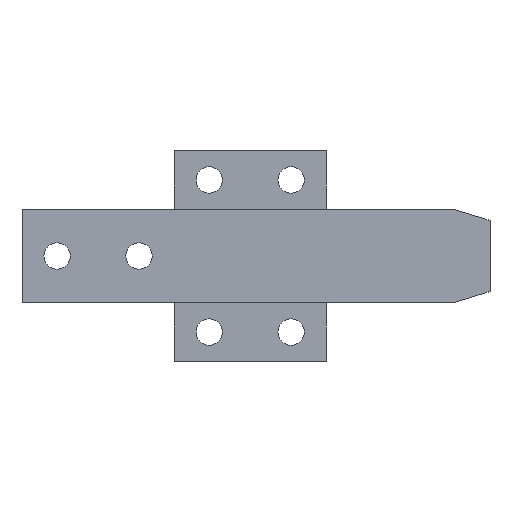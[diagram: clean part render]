
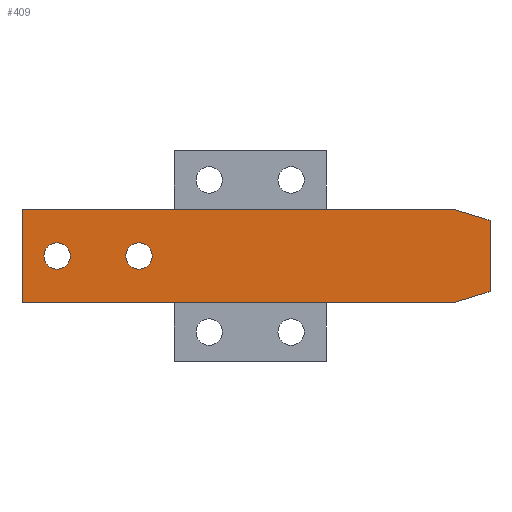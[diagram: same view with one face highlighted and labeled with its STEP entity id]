
A CAD part, front view. The second image highlights one B-rep face of the part: STEP entity #409.
In plain terms, the highlighted planar face has unit normal (0, -1, 0).
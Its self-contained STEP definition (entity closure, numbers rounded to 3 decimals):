
#44=CIRCLE('',#465,2.25);
#45=CIRCLE('',#466,2.25);
#90=ORIENTED_EDGE('',*,*,#170,.F.);
#91=ORIENTED_EDGE('',*,*,#171,.F.);
#92=ORIENTED_EDGE('',*,*,#150,.F.);
#93=ORIENTED_EDGE('',*,*,#166,.F.);
#94=ORIENTED_EDGE('',*,*,#163,.F.);
#95=ORIENTED_EDGE('',*,*,#160,.F.);
#96=ORIENTED_EDGE('',*,*,#157,.F.);
#97=ORIENTED_EDGE('',*,*,#154,.F.);
#150=EDGE_CURVE('',#196,#197,#232,.T.);
#154=EDGE_CURVE('',#197,#200,#236,.T.);
#157=EDGE_CURVE('',#200,#202,#239,.T.);
#160=EDGE_CURVE('',#202,#204,#242,.T.);
#163=EDGE_CURVE('',#204,#206,#245,.T.);
#166=EDGE_CURVE('',#206,#196,#248,.T.);
#170=EDGE_CURVE('',#210,#210,#44,.T.);
#171=EDGE_CURVE('',#211,#211,#45,.T.);
#196=VERTEX_POINT('',#625);
#197=VERTEX_POINT('',#626);
#200=VERTEX_POINT('',#634);
#202=VERTEX_POINT('',#640);
#204=VERTEX_POINT('',#646);
#206=VERTEX_POINT('',#652);
#210=VERTEX_POINT('',#666);
#211=VERTEX_POINT('',#668);
#232=LINE('',#624,#262);
#236=LINE('',#633,#266);
#239=LINE('',#639,#269);
#242=LINE('',#645,#272);
#245=LINE('',#651,#275);
#248=LINE('',#657,#278);
#262=VECTOR('',#504,1000.);
#266=VECTOR('',#510,1000.);
#269=VECTOR('',#515,1000.);
#272=VECTOR('',#520,1000.);
#275=VECTOR('',#525,1000.);
#278=VECTOR('',#530,1000.);
#301=EDGE_LOOP('',(#90));
#302=EDGE_LOOP('',(#91));
#303=EDGE_LOOP('',(#92,#93,#94,#95,#96,#97));
#347=FACE_BOUND('',#301,.T.);
#348=FACE_BOUND('',#302,.T.);
#349=FACE_BOUND('',#303,.T.);
#391=PLANE('',#464);
#409=ADVANCED_FACE('',(#347,#348,#349),#391,.F.);
#464=AXIS2_PLACEMENT_3D('',#664,#538,#539);
#465=AXIS2_PLACEMENT_3D('',#665,#540,#541);
#466=AXIS2_PLACEMENT_3D('',#667,#542,#543);
#504=DIRECTION('',(-1.,0.,0.));
#510=DIRECTION('',(0.,0.,1.));
#515=DIRECTION('',(1.,0.,0.));
#520=DIRECTION('',(0.955,0.,-0.298));
#525=DIRECTION('',(0.,0.,-1.));
#530=DIRECTION('',(-0.955,0.,-0.298));
#538=DIRECTION('',(0.,1.,0.));
#539=DIRECTION('',(0.,0.,1.));
#540=DIRECTION('',(0.,-1.,0.));
#541=DIRECTION('',(0.,0.,-1.));
#542=DIRECTION('',(0.,-1.,0.));
#543=DIRECTION('',(0.,0.,-1.));
#624=CARTESIAN_POINT('',(73.846,0.,-8.));
#625=CARTESIAN_POINT('',(73.846,0.,-8.));
#626=CARTESIAN_POINT('',(0.,0.,-8.));
#633=CARTESIAN_POINT('',(0.,0.,-8.));
#634=CARTESIAN_POINT('',(0.,0.,8.));
#639=CARTESIAN_POINT('',(0.,0.,8.));
#640=CARTESIAN_POINT('',(73.846,0.,8.));
#645=CARTESIAN_POINT('',(73.846,0.,8.));
#646=CARTESIAN_POINT('',(80.,0.,6.08));
#651=CARTESIAN_POINT('',(80.,0.,6.08));
#652=CARTESIAN_POINT('',(80.,0.,-6.08));
#657=CARTESIAN_POINT('',(80.,0.,-6.08));
#664=CARTESIAN_POINT('',(0.,0.,0.));
#665=CARTESIAN_POINT('',(20.,0.,0.));
#666=CARTESIAN_POINT('',(20.,0.,-2.25));
#667=CARTESIAN_POINT('',(6.,0.,0.));
#668=CARTESIAN_POINT('',(6.,0.,-2.25));
